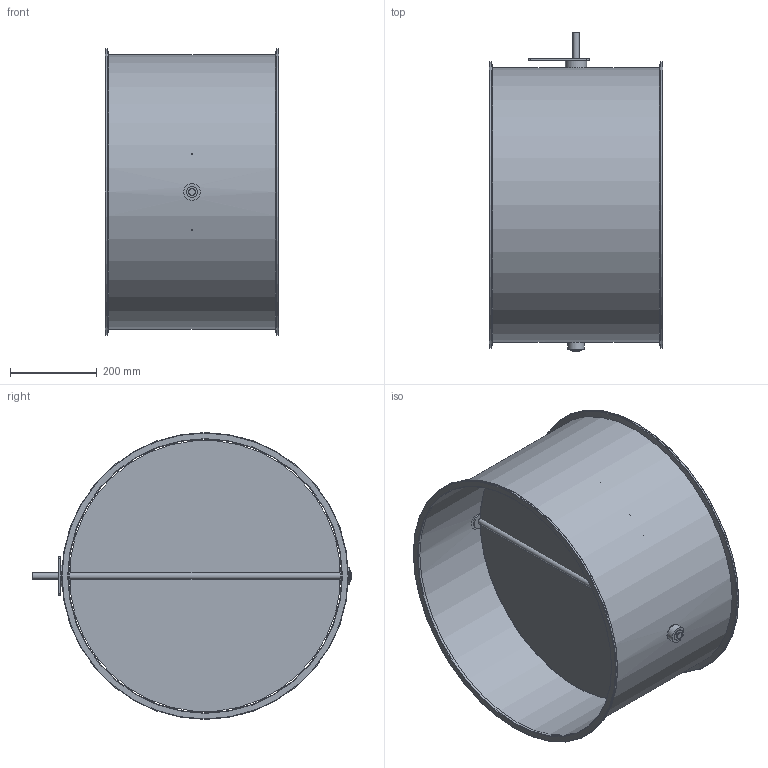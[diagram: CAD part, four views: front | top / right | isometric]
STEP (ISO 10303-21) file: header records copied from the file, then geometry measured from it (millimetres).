
FILE_DESCRIPTION(/* description */ (''),/* implementation_level */ '2;1');
FILE_NAME(/* name */ 'EA113-80B__630_L400_Belimo_Typ_NM.stp',/* time_stamp */ '2017-12-07T11:16:29+01:00',/* author */ (''),/* organization */ (''),/* preprocessor_version */ 'ST-DEVELOPER v11',/* originating_system */ 'SIEMENS UGS NX 6.0',/* authorisation */ '');
FILE_SCHEMA (('CONFIG_CONTROL_DESIGN'));
Length unit declared in the file: millimetre
Products named in the file (1): gars5544kxee
Bounding box: 400 x 734 x 660 mm (x, y, z)
Volume: 1794001.6 mm3; surface area: 2387348.4 mm2
Topology: 8 solids, 8 shells, 63 faces, 135 edges, 90 vertices
Faces by surface type: cylinder 31, plane 24, torus 6, cone 2
Full cylindrical faces by diameter (mm): 6.1 x7, 15 x3, 25 x3, 25.85 x2, 26 x2, 38 x3, 49 x1, 630 x1, 632 x1, 660 x2
Entity records: 1670 total; most frequent: CARTESIAN_POINT 304, DIRECTION 280, ORIENTED_EDGE 184, EDGE_LOOP 128, AXIS2_PLACEMENT_3D 128, FACE_BOUND 114, EDGE_CURVE 92, VERTEX_POINT 80
